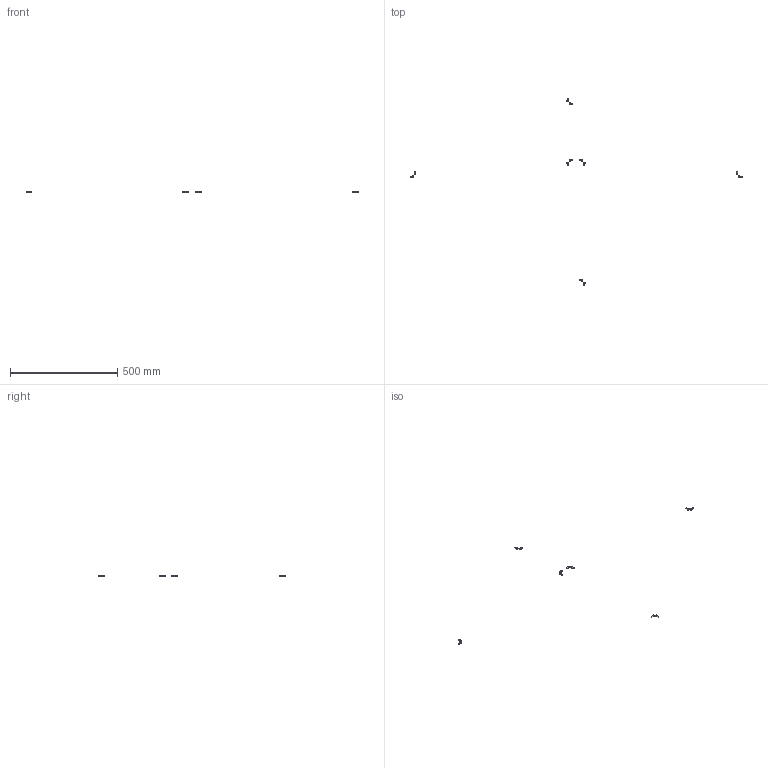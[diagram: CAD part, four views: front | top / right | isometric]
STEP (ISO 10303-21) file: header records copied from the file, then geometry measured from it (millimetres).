
FILE_DESCRIPTION(/* description */ (''),/* implementation_level */ '2;1');
FILE_NAME(/* name */ '1.frame-bottom#1.5#CB5-10',/* time_stamp */ '2014-12-01T20:11:17+01:00',/* author */ (''),/* organization */ (''),/* preprocessor_version */ 'ST-DEVELOPER v14',/* originating_system */ '',/* authorisation */ '');
FILE_SCHEMA (('AUTOMOTIVE_DESIGN'));
Length unit declared in the file: millimetre
Products named in the file (2): Document; screw DIN912-like, M5x10
Assembly tree (4 placements, depth 2):
  Document
    screw DIN912-like, M5x10  x4
Bounding box: 1551 x 871 x 8.5 mm (x, y, z)
Volume: 5260 mm3; surface area: 5115.6 mm2
Topology: 12 solids, 12 shells, 300 faces, 672 edges, 396 vertices
Faces by surface type: plane 180, bspline 120
Entity records: 12277 total; most frequent: CARTESIAN_POINT 5659, B_SPLINE_CURVE_WITH_KNOTS 1134, ORIENTED_EDGE 972, PCURVE 972, DEFINITIONAL_REPRESENTATION 972, SURFACE_CURVE 486, EDGE_CURVE 486, VERTEX_POINT 297
